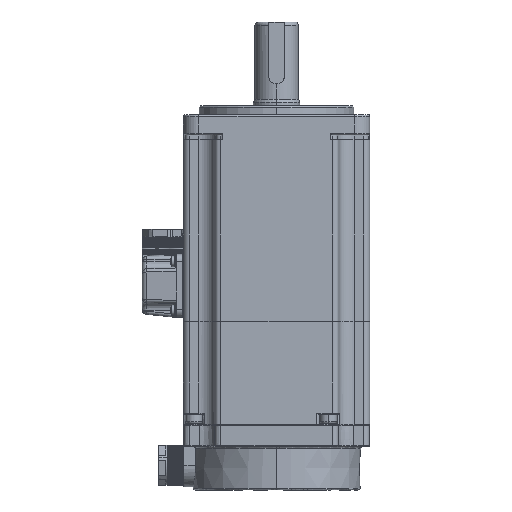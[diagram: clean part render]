
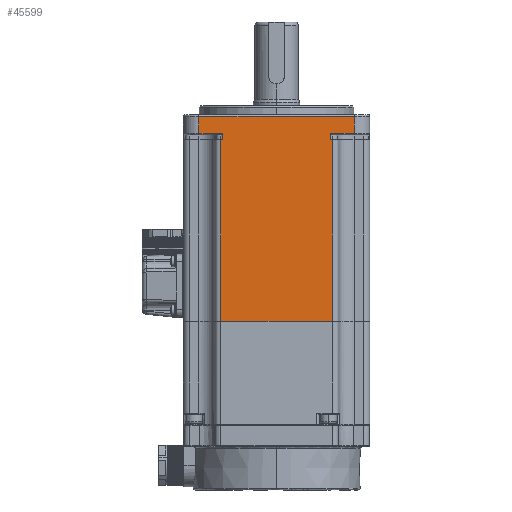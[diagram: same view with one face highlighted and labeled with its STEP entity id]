
A CAD part, left-side view. The second image highlights one B-rep face of the part: STEP entity #45599.
In plain terms, the highlighted planar face has unit normal (-1, 0, 0).
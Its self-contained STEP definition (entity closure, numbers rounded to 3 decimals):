
#1256 = CARTESIAN_POINT ( 'NONE',  ( -30.584, 7.954, 102.1 ) ) ;
#3002 = ORIENTED_EDGE ( 'NONE', *, *, #55000, .F. ) ;
#3235 = CARTESIAN_POINT ( 'NONE',  ( -30.584, -27.646, 34.9 ) ) ;
#3738 = ORIENTED_EDGE ( 'NONE', *, *, #6084, .T. ) ;
#4562 = VERTEX_POINT ( 'NONE', #33537 ) ;
#5045 = CARTESIAN_POINT ( 'NONE',  ( -30.584, 15.554, 95.7 ) ) ;
#5532 = DIRECTION ( 'NONE',  ( 0., 0., 1. ) ) ;
#6084 = EDGE_CURVE ( 'NONE', #89905, #4562, #10441, .T. ) ;
#7276 = CARTESIAN_POINT ( 'NONE',  ( -30.584, -39.646, 101.1 ) ) ;
#8381 = VECTOR ( 'NONE', #20220, 1000. ) ;
#9648 = VECTOR ( 'NONE', #65196, 1000. ) ;
#10441 = LINE ( 'NONE', #62003, #29231 ) ;
#10792 = EDGE_CURVE ( 'NONE', #4562, #11808, #75243, .T. ) ;
#11808 = VERTEX_POINT ( 'NONE', #86933 ) ;
#11904 = DIRECTION ( 'NONE',  ( 0., 0., -1. ) ) ;
#12088 = VERTEX_POINT ( 'NONE', #37987 ) ;
#13523 = CARTESIAN_POINT ( 'NONE',  ( -30.584, -34.646, 95.7 ) ) ;
#14611 = DIRECTION ( 'NONE',  ( 0., 1., 0. ) ) ;
#15079 = VECTOR ( 'NONE', #14611, 1000. ) ;
#19076 = ORIENTED_EDGE ( 'NONE', *, *, #53255, .T. ) ;
#20220 = DIRECTION ( 'NONE',  ( 0., -1., 0. ) ) ;
#21480 = DIRECTION ( 'NONE',  ( 0., 1., 0. ) ) ;
#21782 = CARTESIAN_POINT ( 'NONE',  ( -30.584, 15.554, 101.1 ) ) ;
#22585 = VECTOR ( 'NONE', #5532, 1000. ) ;
#23237 = EDGE_CURVE ( 'NONE', #79125, #72704, #57400, .T. ) ;
#26101 = VECTOR ( 'NONE', #51894, 1000. ) ;
#26166 = ORIENTED_EDGE ( 'NONE', *, *, #87825, .T. ) ;
#26523 = CARTESIAN_POINT ( 'NONE',  ( -30.584, -34.646, 102.1 ) ) ;
#26856 = VECTOR ( 'NONE', #21480, 1000. ) ;
#27945 = VERTEX_POINT ( 'NONE', #3235 ) ;
#29190 = CARTESIAN_POINT ( 'NONE',  ( -30.584, -27.646, 93.7 ) ) ;
#29231 = VECTOR ( 'NONE', #62324, 1000. ) ;
#30484 = DIRECTION ( 'NONE',  ( 1., 0., 0. ) ) ;
#31021 = EDGE_LOOP ( 'NONE', ( #3002, #26166, #3738, #61960, #19076, #39749, #44906, #80365, #78839, #76498, #66538, #70994 ) ) ;
#32707 = EDGE_CURVE ( 'NONE', #72704, #12088, #43694, .T. ) ;
#32851 = LINE ( 'NONE', #58151, #9648 ) ;
#33537 = CARTESIAN_POINT ( 'NONE',  ( -30.584, -27.046, 93.7 ) ) ;
#36612 = VECTOR ( 'NONE', #11904, 1000. ) ;
#37987 = CARTESIAN_POINT ( 'NONE',  ( -30.584, 7.954, 95.7 ) ) ;
#39749 = ORIENTED_EDGE ( 'NONE', *, *, #62601, .T. ) ;
#43694 = LINE ( 'NONE', #47933, #8381 ) ;
#44904 = CARTESIAN_POINT ( 'NONE',  ( -30.584, -39.646, 34.9 ) ) ;
#44906 = ORIENTED_EDGE ( 'NONE', *, *, #69631, .T. ) ;
#45599 = ADVANCED_FACE ( 'NONE', ( #68917 ), #58341, .F. ) ;
#46644 = CARTESIAN_POINT ( 'NONE',  ( -30.584, -34.646, 101.1 ) ) ;
#47933 = CARTESIAN_POINT ( 'NONE',  ( -30.584, 7.954, 95.7 ) ) ;
#49674 = CARTESIAN_POINT ( 'NONE',  ( -30.584, -39.646, 93.7 ) ) ;
#50933 = VECTOR ( 'NONE', #71664, 1000. ) ;
#51894 = DIRECTION ( 'NONE',  ( 0., 1., 0. ) ) ;
#53255 = EDGE_CURVE ( 'NONE', #11808, #58727, #86164, .T. ) ;
#54438 = VECTOR ( 'NONE', #81233, 1000. ) ;
#55000 = EDGE_CURVE ( 'NONE', #27945, #67476, #86449, .T. ) ;
#55260 = LINE ( 'NONE', #59557, #73884 ) ;
#57400 = LINE ( 'NONE', #81928, #36612 ) ;
#57868 = AXIS2_PLACEMENT_3D ( 'NONE', #65417, #30484, #79496 ) ;
#58151 = CARTESIAN_POINT ( 'NONE',  ( -30.584, 8.554, 102.1 ) ) ;
#58341 = PLANE ( 'NONE',  #57868 ) ;
#58586 = VERTEX_POINT ( 'NONE', #70848 ) ;
#58727 = VERTEX_POINT ( 'NONE', #86423 ) ;
#59557 = CARTESIAN_POINT ( 'NONE',  ( -30.584, -27.646, 102.1 ) ) ;
#61960 = ORIENTED_EDGE ( 'NONE', *, *, #10792, .T. ) ;
#62003 = CARTESIAN_POINT ( 'NONE',  ( -30.584, -39.646, 93.7 ) ) ;
#62324 = DIRECTION ( 'NONE',  ( 0., 1., 0. ) ) ;
#62601 = EDGE_CURVE ( 'NONE', #58727, #69984, #78548, .T. ) ;
#65196 = DIRECTION ( 'NONE',  ( 0., 0., -1. ) ) ;
#65306 = VECTOR ( 'NONE', #90521, 1000. ) ;
#65417 = CARTESIAN_POINT ( 'NONE',  ( -30.584, -39.646, 102.1 ) ) ;
#66538 = ORIENTED_EDGE ( 'NONE', *, *, #79665, .T. ) ;
#66681 = DIRECTION ( 'NONE',  ( 0., 0., 1. ) ) ;
#66978 = CARTESIAN_POINT ( 'NONE',  ( -30.584, 8.554, 93.7 ) ) ;
#67476 = VERTEX_POINT ( 'NONE', #69499 ) ;
#68917 = FACE_OUTER_BOUND ( 'NONE', #31021, .T. ) ;
#69499 = CARTESIAN_POINT ( 'NONE',  ( -30.584, 8.554, 34.9 ) ) ;
#69559 = LINE ( 'NONE', #1256, #50933 ) ;
#69631 = EDGE_CURVE ( 'NONE', #69984, #79125, #82813, .T. ) ;
#69890 = LINE ( 'NONE', #49674, #15079 ) ;
#69984 = VERTEX_POINT ( 'NONE', #46644 ) ;
#70307 = EDGE_CURVE ( 'NONE', #12088, #58586, #69559, .T. ) ;
#70848 = CARTESIAN_POINT ( 'NONE',  ( -30.584, 7.954, 93.7 ) ) ;
#70994 = ORIENTED_EDGE ( 'NONE', *, *, #84398, .T. ) ;
#71664 = DIRECTION ( 'NONE',  ( 0., 0., -1. ) ) ;
#72704 = VERTEX_POINT ( 'NONE', #5045 ) ;
#73884 = VECTOR ( 'NONE', #66681, 1000. ) ;
#75243 = LINE ( 'NONE', #82387, #54438 ) ;
#76498 = ORIENTED_EDGE ( 'NONE', *, *, #70307, .T. ) ;
#78548 = LINE ( 'NONE', #26523, #22585 ) ;
#78839 = ORIENTED_EDGE ( 'NONE', *, *, #32707, .T. ) ;
#79125 = VERTEX_POINT ( 'NONE', #21782 ) ;
#79496 = DIRECTION ( 'NONE',  ( 0., 1., 0. ) ) ;
#79665 = EDGE_CURVE ( 'NONE', #58586, #80479, #69890, .T. ) ;
#80365 = ORIENTED_EDGE ( 'NONE', *, *, #23237, .T. ) ;
#80479 = VERTEX_POINT ( 'NONE', #66978 ) ;
#81233 = DIRECTION ( 'NONE',  ( 0., 0., 1. ) ) ;
#81928 = CARTESIAN_POINT ( 'NONE',  ( -30.584, 15.554, 102.1 ) ) ;
#82387 = CARTESIAN_POINT ( 'NONE',  ( -30.584, -27.046, 102.1 ) ) ;
#82813 = LINE ( 'NONE', #7276, #26856 ) ;
#84398 = EDGE_CURVE ( 'NONE', #80479, #67476, #32851, .T. ) ;
#86164 = LINE ( 'NONE', #13523, #65306 ) ;
#86423 = CARTESIAN_POINT ( 'NONE',  ( -30.584, -34.646, 95.7 ) ) ;
#86449 = LINE ( 'NONE', #44904, #26101 ) ;
#86933 = CARTESIAN_POINT ( 'NONE',  ( -30.584, -27.046, 95.7 ) ) ;
#87825 = EDGE_CURVE ( 'NONE', #27945, #89905, #55260, .T. ) ;
#89905 = VERTEX_POINT ( 'NONE', #29190 ) ;
#90521 = DIRECTION ( 'NONE',  ( 0., -1., 0. ) ) ;
